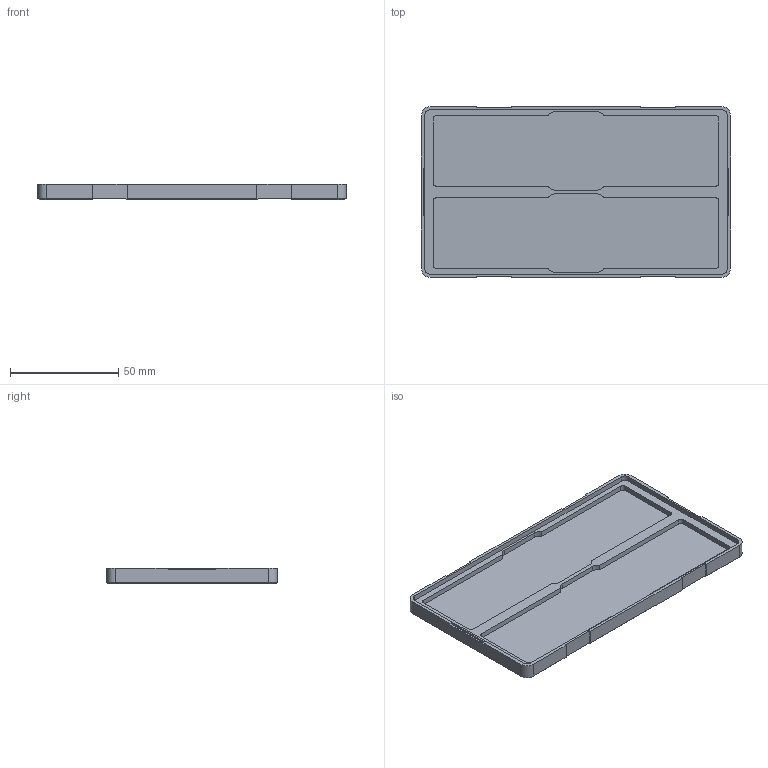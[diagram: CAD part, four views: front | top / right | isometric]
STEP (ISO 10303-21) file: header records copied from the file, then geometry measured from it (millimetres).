
FILE_DESCRIPTION(('Open CASCADE Model'),'2;1');
FILE_NAME('case_lid','2026-11-19T07:27:34',('Author'),('Open CASCADE'), 'Open CASCADE STEP processor 8.0','build123d','Unknown');
FILE_SCHEMA(('AUTOMOTIVE_DESIGN { 1 0 10303 214 1 1 1 1 }'));
Length unit declared in the file: millimetre
Products named in the file (1): case_lid
Bounding box: 143 x 79 x 7.4 mm (x, y, z)
Volume: 33061.4 mm3; surface area: 28349.3 mm2
Topology: 1 solids, 1 shells, 101 faces, 280 edges, 184 vertices
Faces by surface type: plane 73, cylinder 24, cone 4
Entity records: 6692 total; most frequent: CARTESIAN_POINT 1430, DIRECTION 872, ORIENTED_EDGE 560, PCURVE 560, DEFINITIONAL_REPRESENTATION 560, LINE 532, VECTOR 532, EDGE_CURVE 280
